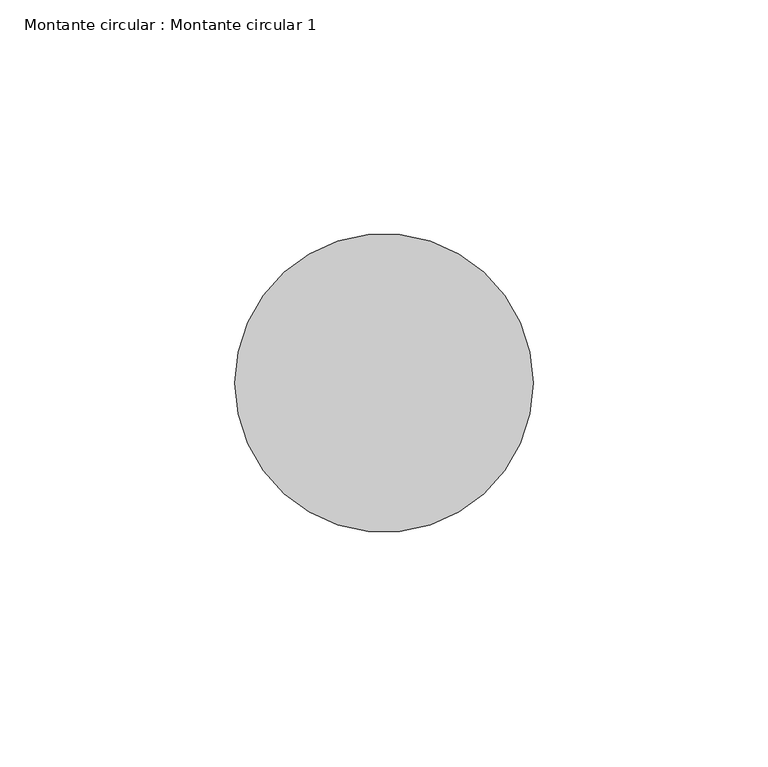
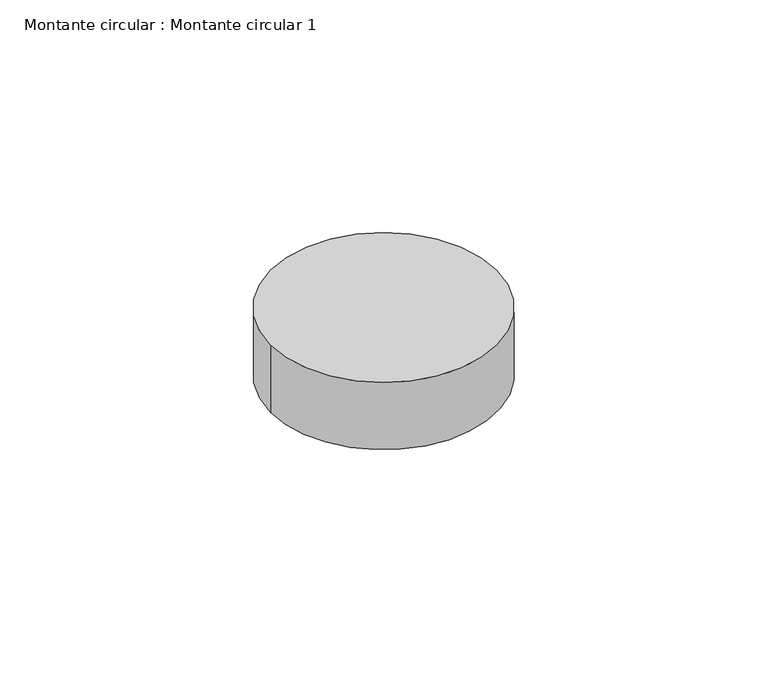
"""IFC4 building model written with IfcOpenShell, lengths in millimetres: member geometry, Montante circular : Montante circular 1."""

from ifc_helpers import new_model, si_unit, point, frame, origin, origin_2d, place, context, project, spatial, circle_curve, trimmed, segment, composite_curve, outline, extrude, source, transform, mapped, element, save


def montante_circular_montante_circular_1_51256c9e(model_context):
    return source(origin(), model_context, "Body", "SweptSolid", [
        extrude(outline(composite_curve([segment(trimmed(circle_curve(origin_2d(), 31.75), [point((31.75, 0.0))], [point((-31.75, 0.0))], False, "CARTESIAN"), True, "CONTINUOUS"), segment(trimmed(circle_curve(origin_2d(), 31.75), [point((-31.75, 0.0))], [point((31.75, 0.0))], False, "CARTESIAN"), True, "CONTINUOUS")], self_intersect=False)), frame((0.0, 0.0, -20.0), z_axis=(0.0, 0.0, 1.0), x_axis=(1.0, 0.0, 0.0)), (0.0, 0.0, 1.0), 20.0),
    ])


if __name__ == "__main__":
    model = new_model("IFC4")
    model_context = context("Model", 3, world=origin())
    ifc_project = project(units=[si_unit("LENGTHUNIT", "METRE", prefix="MILLI")], contexts=[model_context])
    site = spatial("IfcSite", under=ifc_project)
    building = spatial("IfcBuilding", under=site)
    placement = place(None, origin())
    montante_circular_montante_circular_1_shape = montante_circular_montante_circular_1_51256c9e(model_context)
    element("IfcMember", 1, ObjectType="Montante circular : Montante circular 1", at=placement, inside=building, context=model_context, shape_type="MappedRepresentation", body=[
        mapped(montante_circular_montante_circular_1_shape, transform((0.0, 0.0, 0.0), x_axis=(1.0, 0.0, 0.0), y_axis=(0.0, 1.0, 0.0), z_axis=(0.0, 0.0, 1.0))),
    ])
    save(model, "model.ifc")
